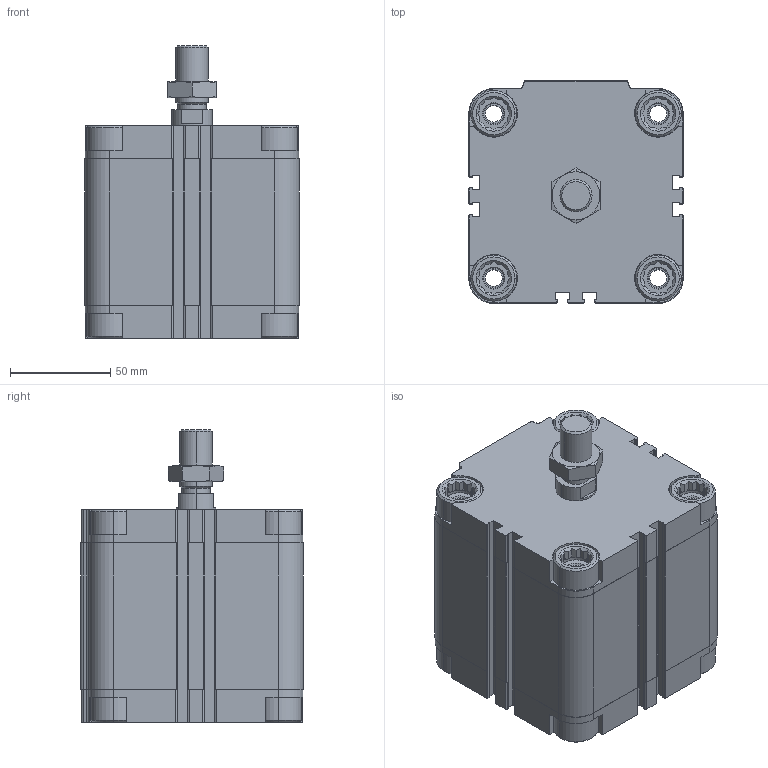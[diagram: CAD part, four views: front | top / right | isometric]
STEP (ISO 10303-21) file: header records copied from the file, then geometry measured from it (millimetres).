
FILE_DESCRIPTION (( 'STEP AP203' ), '1' );
FILE_NAME ('CDVU80-50.STEP', '2020-03-19T11:40:18', ( '' ), ( '' ), 'SwSTEP 2.0', 'SolidWorks 2019', '' );
FILE_SCHEMA (( 'CONFIG_CONTROL_DESIGN' ));
Length unit declared in the file: millimetre
Products named in the file (1): CDVU80-50
Bounding box: 107 x 111 x 146 mm (x, y, z)
Volume: 906403.6 mm3; surface area: 147475.3 mm2
Topology: 3 solids, 3 shells, 675 faces, 1816 edges, 1190 vertices
Faces by surface type: plane 397, cylinder 208, cone 70
Entity records: 21723 total; most frequent: CARTESIAN_POINT 4642, ORIENTED_EDGE 3624, DIRECTION 3460, EDGE_CURVE 1812, VERTEX_POINT 1190, AXIS2_PLACEMENT_3D 1176, LINE 1108, VECTOR 1108
